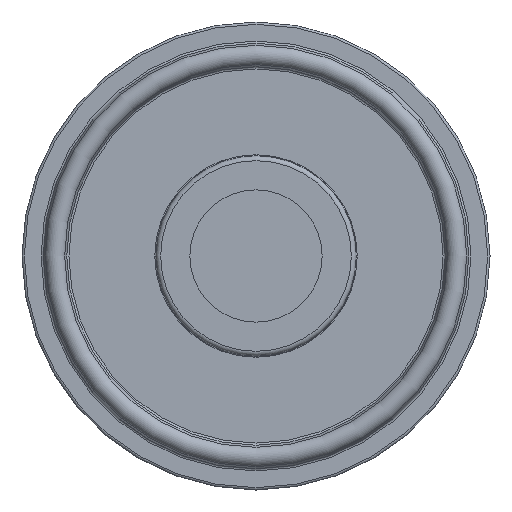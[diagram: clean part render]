
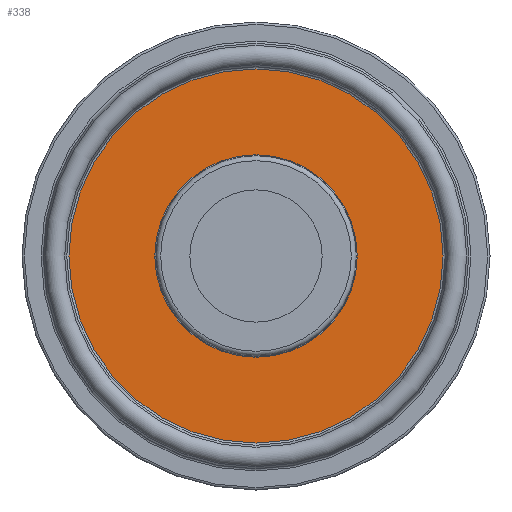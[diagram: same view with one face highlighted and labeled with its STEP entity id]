
A CAD part, left-side view. The second image highlights one B-rep face of the part: STEP entity #338.
In plain terms, the highlighted planar face has unit normal (-1, 0, 0).
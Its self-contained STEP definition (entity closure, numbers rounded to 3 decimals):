
#338 = ADVANCED_FACE( '', ( #861, #862 ), #863, .F. );
#861 = FACE_BOUND( '', #1728, .T. );
#862 = FACE_OUTER_BOUND( '', #1729, .T. );
#863 = PLANE( '', #1730 );
#1728 = EDGE_LOOP( '', ( #3580 ) );
#1729 = EDGE_LOOP( '', ( #3581 ) );
#1730 = AXIS2_PLACEMENT_3D( '', #3582, #3583, #3584 );
#3580 = ORIENTED_EDGE( '', *, *, #5299, .T. );
#3581 = ORIENTED_EDGE( '', *, *, #5300, .T. );
#3582 = CARTESIAN_POINT( '', ( 14.476, 0., 20.474 ) );
#3583 = DIRECTION( '', ( 1., 0., 0. ) );
#3584 = DIRECTION( '', ( 0., 0., -1. ) );
#5299 = EDGE_CURVE( '', #6208, #6208, #6209, .T. );
#5300 = EDGE_CURVE( '', #6210, #6210, #6211, .F. );
#6208 = VERTEX_POINT( '', #7635 );
#6209 = CIRCLE( '', #7636, 10.986 );
#6210 = VERTEX_POINT( '', #7637 );
#6211 = CIRCLE( '', #7638, 20.306 );
#7635 = CARTESIAN_POINT( '', ( 14.476, 0., -10.986 ) );
#7636 = AXIS2_PLACEMENT_3D( '', #9665, #9666, #9667 );
#7637 = CARTESIAN_POINT( '', ( 14.476, 0., -20.306 ) );
#7638 = AXIS2_PLACEMENT_3D( '', #9668, #9669, #9670 );
#9665 = CARTESIAN_POINT( '', ( 14.476, 0., 0. ) );
#9666 = DIRECTION( '', ( 1., 0., 0. ) );
#9667 = DIRECTION( '', ( 0., 0., -1. ) );
#9668 = CARTESIAN_POINT( '', ( 14.476, 0., 0. ) );
#9669 = DIRECTION( '', ( 1., 0., 0. ) );
#9670 = DIRECTION( '', ( 0., 0., -1. ) );
